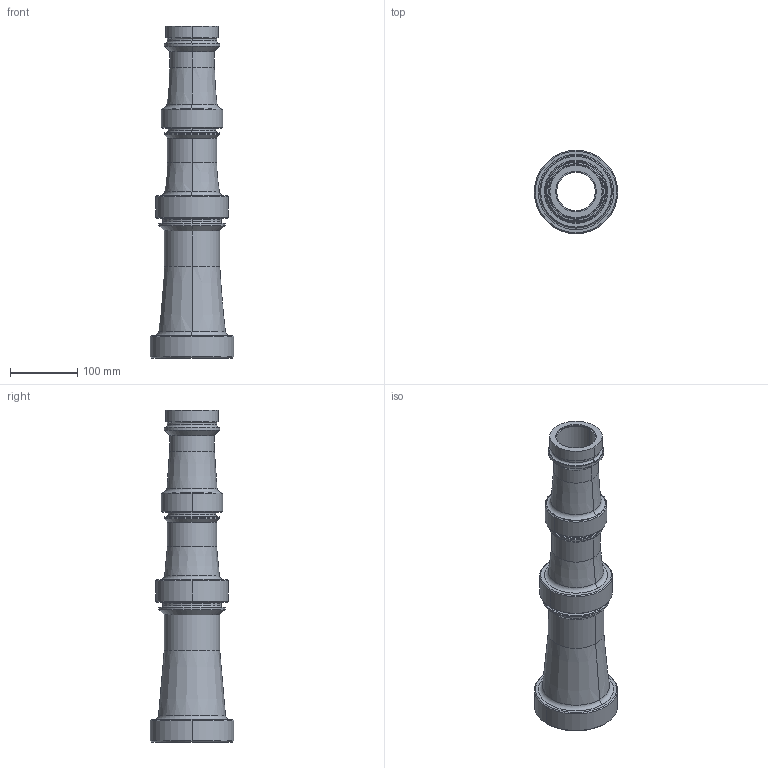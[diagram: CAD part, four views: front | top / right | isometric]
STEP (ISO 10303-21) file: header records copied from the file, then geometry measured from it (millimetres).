
FILE_DESCRIPTION((''),'2;1');
FILE_NAME('34990002_SW0001','2017-03-16T',('jhabegger'),(''),'CREO PARAMETRIC BY PTC INC, 2015290','CREO PARAMETRIC BY PTC INC, 2015290','');
FILE_SCHEMA(('CONFIG_CONTROL_DESIGN'));
Length unit declared in the file: inch
Products named in the file (1): 34990002_SW0001
Bounding box: 123.83 x 123.83 x 493.74 mm (x, y, z)
Volume: 1007632.7 mm3; surface area: 272951.6 mm2
Topology: 1 solids, 1 shells, 152 faces, 310 edges, 178 vertices
Faces by surface type: cylinder 54, cone 48, torus 26, plane 20, bspline 4
Entity records: 4143 total; most frequent: DIRECTION 814, CARTESIAN_POINT 748, ORIENTED_EDGE 620, AXIS2_PLACEMENT_3D 356, EDGE_CURVE 310, CIRCLE 208, VERTEX_POINT 178, EDGE_LOOP 172
